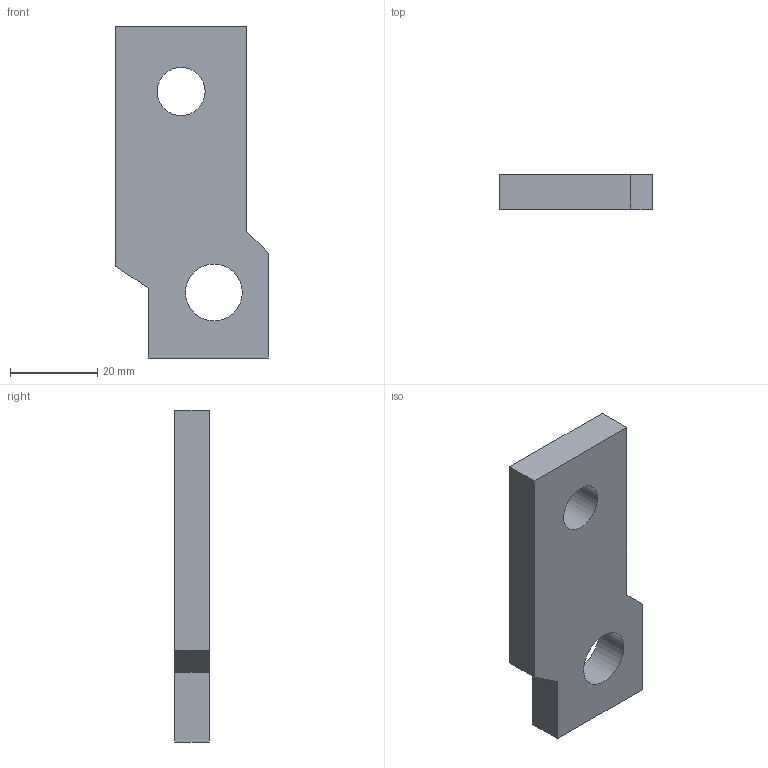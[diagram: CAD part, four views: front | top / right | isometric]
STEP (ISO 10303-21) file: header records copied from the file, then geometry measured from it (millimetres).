
FILE_DESCRIPTION((''),'2;1');
FILE_NAME('U6_C2_4P_BUSBAR','2016-12-07T',('HHI'),(''),'PRO/ENGINEER BY PARAMETRIC TECHNOLOGY CORPORATION, 2012453','PRO/ENGINEER BY PARAMETRIC TECHNOLOGY CORPORATION, 2012453','');
FILE_SCHEMA(('CONFIG_CONTROL_DESIGN'));
Length unit declared in the file: millimetre
Products named in the file (1): U6_C2_4P_BUSBAR
Bounding box: 35 x 8 x 76 mm (x, y, z)
Volume: 16367.9 mm3; surface area: 6419.8 mm2
Topology: 1 solids, 1 shells, 14 faces, 36 edges, 24 vertices
Faces by surface type: plane 10, cylinder 4
Entity records: 474 total; most frequent: CARTESIAN_POINT 74, DIRECTION 72, ORIENTED_EDGE 72, EDGE_CURVE 36, VECTOR 28, LINE 28, VERTEX_POINT 24, AXIS2_PLACEMENT_3D 22
